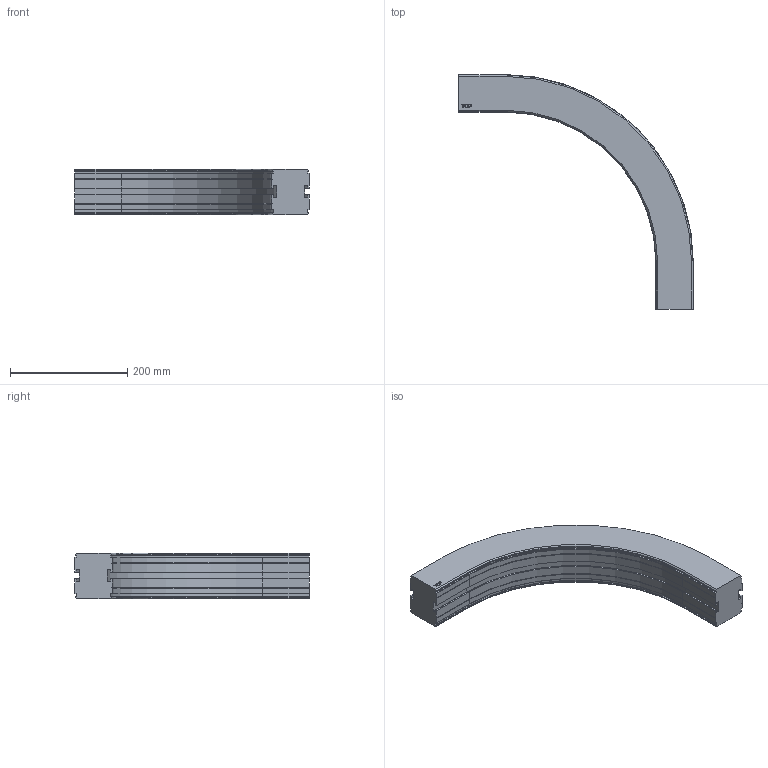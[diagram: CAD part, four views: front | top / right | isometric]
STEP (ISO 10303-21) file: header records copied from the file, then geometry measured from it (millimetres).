
FILE_DESCRIPTION((''),'2;1');
FILE_NAME('C:\Vault Klient\Projekt\Koncept konstruktion\Serie 620 Balk\620-5210.stp','2009-11-26T14:50:02',('Mathias'),(''),'Autodesk Inventor 2010','Autodesk Inventor 2010','');
FILE_SCHEMA(('AUTOMOTIVE_DESIGN { 1 0 10303 214 1 1 1 1 }'));
Length unit declared in the file: millimetre
Products named in the file (1): 620-5210
Bounding box: 401 x 401 x 78 mm (x, y, z)
Volume: 2855179 mm3; surface area: 230649.5 mm2
Topology: 1 solids, 1 shells, 169 faces, 446 edges, 284 vertices
Faces by surface type: plane 109, cylinder 30, bspline 14, cone 12, torus 4
Entity records: 5295 total; most frequent: CARTESIAN_POINT 1094, ORIENTED_EDGE 892, DIRECTION 802, EDGE_CURVE 446, VECTOR 346, LINE 346, VERTEX_POINT 284, AXIS2_PLACEMENT_3D 228
